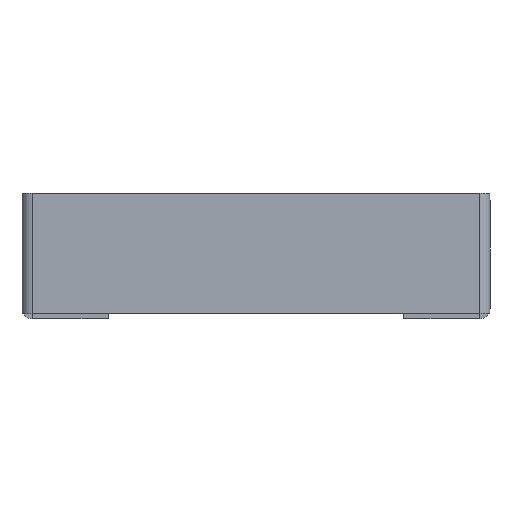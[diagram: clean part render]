
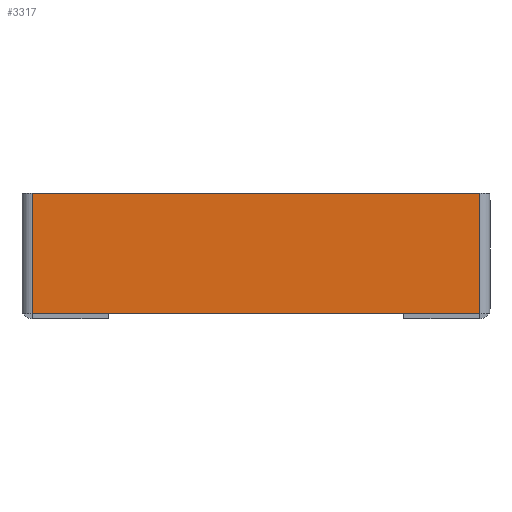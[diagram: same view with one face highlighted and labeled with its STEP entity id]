
A CAD part, front view. The second image highlights one B-rep face of the part: STEP entity #3317.
In plain terms, the highlighted planar face has unit normal (0, -1, 0).
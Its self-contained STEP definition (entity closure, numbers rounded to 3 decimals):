
#148 = CARTESIAN_POINT ( 'NONE',  ( -110., -2.5, -58. ) ) ;
#183 = LINE ( 'NONE', #1195, #6292 ) ;
#502 = VECTOR ( 'NONE', #5766, 1000. ) ;
#566 = VERTEX_POINT ( 'NONE', #8736 ) ;
#822 = CARTESIAN_POINT ( 'NONE',  ( 107.5, -2.5, -58. ) ) ;
#1195 = CARTESIAN_POINT ( 'NONE',  ( -107.5, -2.5, 0. ) ) ;
#1727 = VECTOR ( 'NONE', #5226, 1000. ) ;
#1818 = LINE ( 'NONE', #148, #5297 ) ;
#2060 = ORIENTED_EDGE ( 'NONE', *, *, #8474, .T. ) ;
#2641 = ORIENTED_EDGE ( 'NONE', *, *, #3610, .T. ) ;
#3026 = FACE_OUTER_BOUND ( 'NONE', #8217, .T. ) ;
#3303 = VERTEX_POINT ( 'NONE', #4146 ) ;
#3317 = ADVANCED_FACE ( 'NONE', ( #3026 ), #8280, .F. ) ;
#3384 = CARTESIAN_POINT ( 'NONE',  ( 0., -2.5, 0. ) ) ;
#3610 = EDGE_CURVE ( 'NONE', #566, #6214, #7487, .T. ) ;
#4038 = AXIS2_PLACEMENT_3D ( 'NONE', #3384, #4120, #8186 ) ;
#4120 = DIRECTION ( 'NONE',  ( 0., 1., 0. ) ) ;
#4146 = CARTESIAN_POINT ( 'NONE',  ( -107.5, -2.5, 0. ) ) ;
#4204 = VERTEX_POINT ( 'NONE', #8040 ) ;
#5226 = DIRECTION ( 'NONE',  ( 1., 0., 0. ) ) ;
#5297 = VECTOR ( 'NONE', #8651, 1000. ) ;
#5309 = CARTESIAN_POINT ( 'NONE',  ( -110., -2.5, 0. ) ) ;
#5407 = LINE ( 'NONE', #5309, #1727 ) ;
#5766 = DIRECTION ( 'NONE',  ( 0., 0., 1. ) ) ;
#5815 = ORIENTED_EDGE ( 'NONE', *, *, #8817, .F. ) ;
#6214 = VERTEX_POINT ( 'NONE', #9072 ) ;
#6292 = VECTOR ( 'NONE', #6988, 1000. ) ;
#6988 = DIRECTION ( 'NONE',  ( 0., 0., -1. ) ) ;
#7487 = LINE ( 'NONE', #822, #502 ) ;
#8040 = CARTESIAN_POINT ( 'NONE',  ( -107.5, -2.5, -58. ) ) ;
#8186 = DIRECTION ( 'NONE',  ( 0., 0., 1. ) ) ;
#8217 = EDGE_LOOP ( 'NONE', ( #2060, #5815, #2641, #8823 ) ) ;
#8280 = PLANE ( 'NONE',  #4038 ) ;
#8372 = EDGE_CURVE ( 'NONE', #3303, #6214, #5407, .T. ) ;
#8474 = EDGE_CURVE ( 'NONE', #3303, #4204, #183, .T. ) ;
#8651 = DIRECTION ( 'NONE',  ( -1., 0., 0. ) ) ;
#8736 = CARTESIAN_POINT ( 'NONE',  ( 107.5, -2.5, -58. ) ) ;
#8817 = EDGE_CURVE ( 'NONE', #566, #4204, #1818, .T. ) ;
#8823 = ORIENTED_EDGE ( 'NONE', *, *, #8372, .F. ) ;
#9072 = CARTESIAN_POINT ( 'NONE',  ( 107.5, -2.5, 0. ) ) ;
